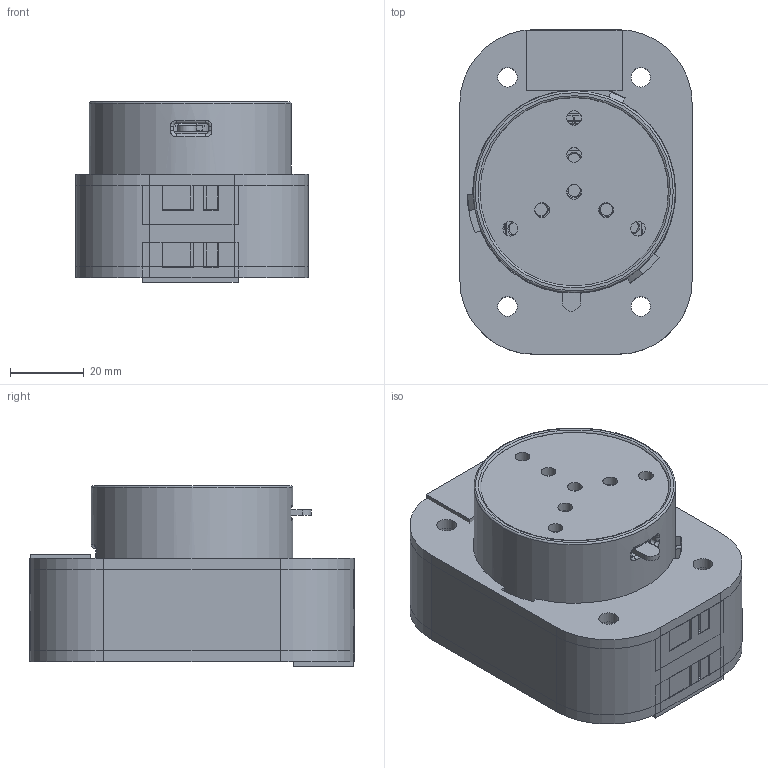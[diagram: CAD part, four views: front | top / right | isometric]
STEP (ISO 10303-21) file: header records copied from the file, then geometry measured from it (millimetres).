
FILE_DESCRIPTION(/* description */ (''),/* implementation_level */ '2;1');
FILE_NAME(/* name */ 'light_head_Noel v44.step',/* time_stamp */ '2025-04-24T19:50:49+05:30',/* author */ (''),/* organization */ (''),/* preprocessor_version */ 'ST-DEVELOPER v20.1',/* originating_system */ 'Autodesk Translation Framework v14.4.0.0',/* authorisation */ '');
FILE_SCHEMA (('AUTOMOTIVE_DESIGN { 1 0 10303 214 3 1 1 }'));
Products named in the file (26): light_head_Noel; case; Led PCB 1; EG1215AA; Led mount_copper; Led mount_pad; Led mount_PCB; JST_XH_B2B-XH-A_1x02_P2.50mm_Vertical; LED_WS2812B_PLCC4_5.0x5.0mm_P3.2mm; Seeed_XIAO-Generic_InSocket_SMD; Led PCB 1.1.1; Led PCB 1.1.2; Led PCB 1.1.3; Led PCB 1.1.4; Led PCB 1.1.5; Led PCB 1.1.6; Led PCB 1.1.7; Switch; platform; Belt_Test_5; pcbled; acrylic; Belt_Test_5_1; Belt_Test_5_2; Belt_Test_5_3; platform_acrylic
Assembly tree (32 placements, depth 5):
  light_head_Noel
    case
      Led PCB 1
        JST_XH_B2B-XH-A_1x02_P2.50mm_Vertical  x2
        EG1215AA
        LED_WS2812B_PLCC4_5.0x5.0mm_P3.2mm  x7
        Led mount_copper
        Led mount_pad
        Led mount_PCB
        Seeed_XIAO-Generic_InSocket_SMD
          Led PCB 1.1.1
          Led PCB 1.1.2
          Led PCB 1.1.3
          Led PCB 1.1.4
          Led PCB 1.1.5
          Led PCB 1.1.6
          Led PCB 1.1.7
      Switch
    platform
    Belt_Test_5
    pcbled
      acrylic
    Belt_Test_5_1
    Belt_Test_5_2
    Belt_Test_5_3
    platform_acrylic
Bounding box: 63 x 88 x 48.9 mm (x, y, z)
Volume: 139965.1 mm3; surface area: 85840.3 mm2
Topology: 190 solids, 190 shells, 3564 faces, 9156 edges, 6006 vertices
Faces by surface type: plane 2511, cylinder 1002, bspline 16, torus 16, cone 15, sphere 4
Full cylindrical faces by diameter (mm): 0.5 x1, 0.7 x14, 0.8 x72, 0.85 x28, 0.9 x14, 0.95 x8, 1.6 x28, 3.333 x7, 4 x7, 5.3 x12, 45.15 x1, 48 x1, 48.15 x1, 51.1 x1, 51.15 x1, 54.75 x1
Entity records: 93870 total; most frequent: CARTESIAN_POINT 16951, DIRECTION 15668, ORIENTED_EDGE 15510, EDGE_CURVE 7755, LINE 5932, VECTOR 5932, VERTEX_POINT 5106, AXIS2_PLACEMENT_3D 4868
